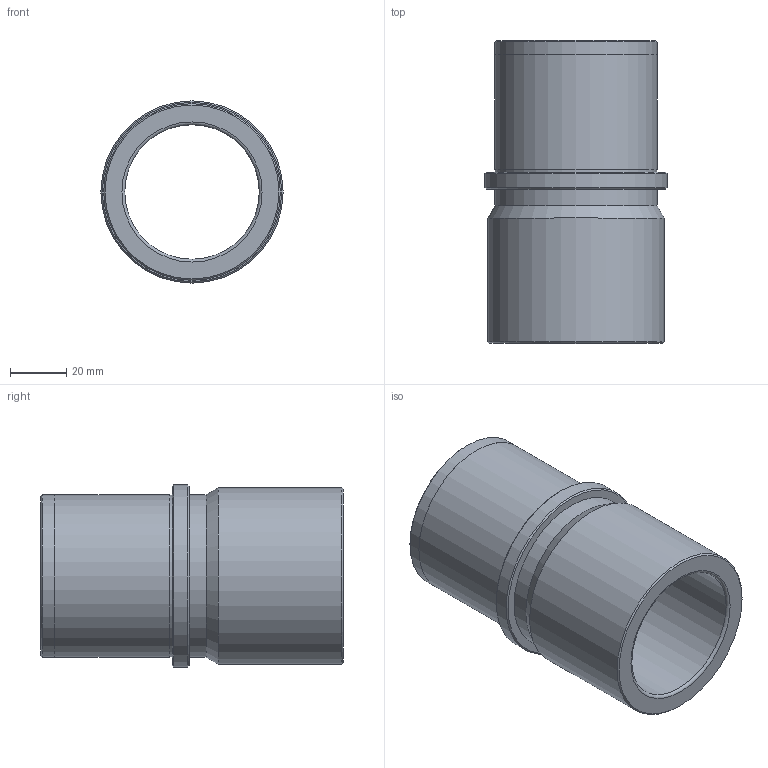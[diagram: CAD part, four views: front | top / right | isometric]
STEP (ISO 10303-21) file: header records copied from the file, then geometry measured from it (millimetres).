
FILE_DESCRIPTION( ( 'STEP AP203' ), '1' );
FILE_NAME( 'C:/Documents and Settings/EXPER/Desktop/Cuma/24 03 2009/D27/D27_40X108X47.step', '2003-01-02T03:42:41', ( ' ' ), ( ' ' ), 'XStep 1.0', ' ', ' ' );
FILE_SCHEMA( ( 'CONFIG_CONTROL_DESIGN' ) );
Length unit declared in the file: metre
Products named in the file (1): 1
Bounding box: 65 x 108 x 65 mm (x, y, z)
Volume: 115992.1 mm3; surface area: 40180.6 mm2
Topology: 1 solids, 1 shells, 20 faces, 34 edges, 20 vertices
Faces by surface type: cylinder 7, plane 6, cone 5, torus 2
Full cylindrical faces by diameter (mm): 48 x1, 57.5 x1, 57.98 x1, 58 x2, 63 x1, 65 x1
Entity records: 453 total; most frequent: DIRECTION 82, CARTESIAN_POINT 61, AXIS2_PLACEMENT_3D 41, EDGE_LOOP 40, ORIENTED_EDGE 40, FACE_OUTER_BOUND 29, ADVANCED_FACE 20, EDGE_CURVE 20
